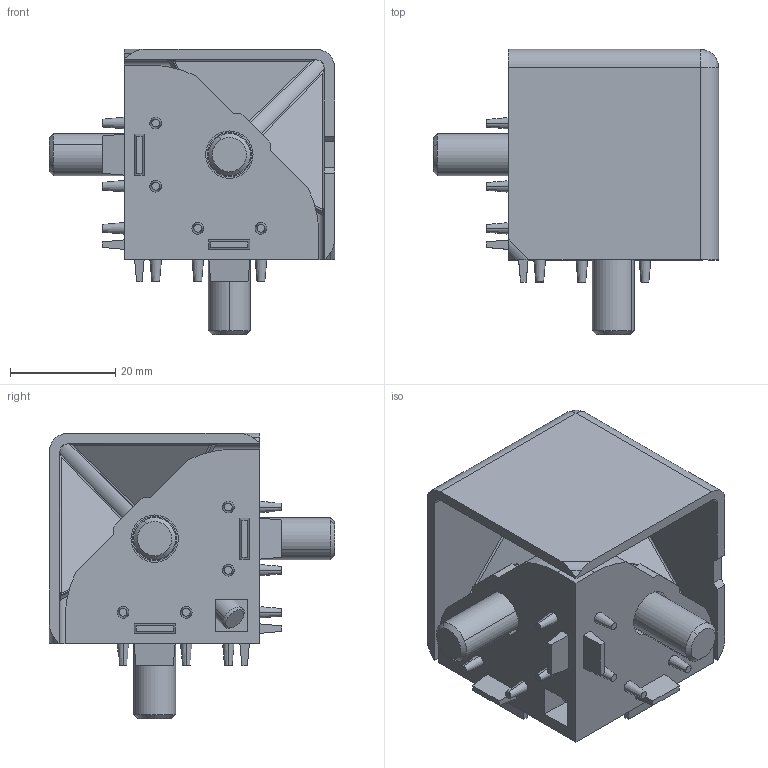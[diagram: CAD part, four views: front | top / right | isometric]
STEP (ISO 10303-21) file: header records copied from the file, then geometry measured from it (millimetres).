
FILE_DESCRIPTION (( 'STEP AP214' ), '1' );
FILE_NAME ('30005-00-0000-00.STEP', '2016-11-21T12:21:39', ( '' ), ( '' ), 'SwSTEP 2.0', 'SolidWorks 2016', '' );
FILE_SCHEMA (( 'AUTOMOTIVE_DESIGN' ));
Length unit declared in the file: millimetre
Products named in the file (5): 10487-01-0000-00_sicherungsscheibem8; 10038-01-0000-00; 10227-01-0000-00; 10116-01-0000-00; 30005-00-0000-00
Assembly tree (8 placements, depth 2):
  30005-00-0000-00
    10116-01-0000-00
    10227-01-0000-00  x3
    10038-01-0000-00
    10487-01-0000-00_sicherungsscheibem8  x3
Bounding box: 54.2 x 54.2 x 54.2 mm (x, y, z)
Volume: 28855.1 mm3; surface area: 22264.6 mm2
Topology: 8 solids, 8 shells, 264 faces, 651 edges, 419 vertices
Faces by surface type: plane 130, cylinder 66, cone 40, bspline 28
Entity records: 8662 total; most frequent: CARTESIAN_POINT 2092, ORIENTED_EDGE 1060, DIRECTION 995, EDGE_CURVE 530, AXIS2_PLACEMENT_3D 347, VERTEX_POINT 343, VECTOR 301, LINE 301
